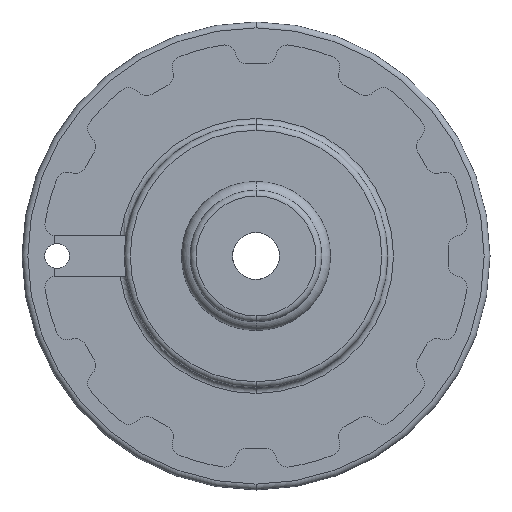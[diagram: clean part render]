
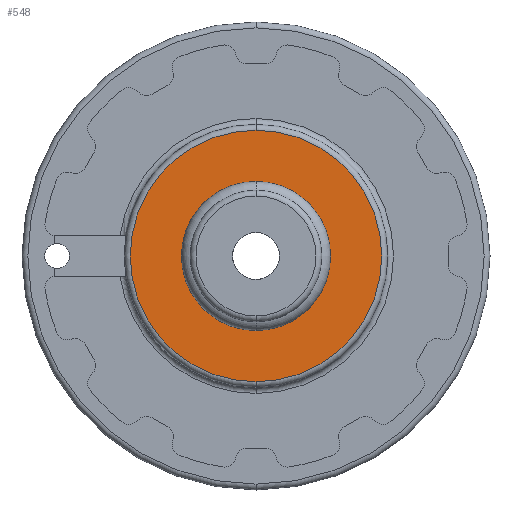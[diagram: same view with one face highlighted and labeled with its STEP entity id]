
A CAD part, front view. The second image highlights one B-rep face of the part: STEP entity #548.
In plain terms, the highlighted planar face has unit normal (0, -1, 0).
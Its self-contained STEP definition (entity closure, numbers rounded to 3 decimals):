
#69 = CARTESIAN_POINT ( 'NONE',  ( 0., -22., 25.5 ) ) ;
#154 = ORIENTED_EDGE ( 'NONE', *, *, #3510, .T. ) ;
#243 = CIRCLE ( 'NONE', #4192, 43. ) ;
#303 = CARTESIAN_POINT ( 'NONE',  ( 0., -22., 0. ) ) ;
#548 = ADVANCED_FACE ( 'NONE', ( #1630, #577 ), #4161, .T. ) ;
#577 = FACE_BOUND ( 'NONE', #1688, .T. ) ;
#667 = DIRECTION ( 'NONE',  ( 0., 0., -1. ) ) ;
#668 = CIRCLE ( 'NONE', #1718, 25.5 ) ;
#675 = EDGE_CURVE ( 'NONE', #2599, #1663, #243, .T. ) ;
#722 = AXIS2_PLACEMENT_3D ( 'NONE', #303, #2837, #4706 ) ;
#726 = CARTESIAN_POINT ( 'NONE',  ( 0., -22., -25.5 ) ) ;
#818 = ORIENTED_EDGE ( 'NONE', *, *, #675, .T. ) ;
#1562 = EDGE_LOOP ( 'NONE', ( #154, #818 ) ) ;
#1611 = VERTEX_POINT ( 'NONE', #69 ) ;
#1630 = FACE_OUTER_BOUND ( 'NONE', #1562, .T. ) ;
#1663 = VERTEX_POINT ( 'NONE', #4071 ) ;
#1688 = EDGE_LOOP ( 'NONE', ( #2490, #4440 ) ) ;
#1718 = AXIS2_PLACEMENT_3D ( 'NONE', #3912, #3936, #667 ) ;
#2116 = AXIS2_PLACEMENT_3D ( 'NONE', #4608, #2352, #3456 ) ;
#2135 = CARTESIAN_POINT ( 'NONE',  ( 0., -22., 0. ) ) ;
#2170 = VERTEX_POINT ( 'NONE', #726 ) ;
#2352 = DIRECTION ( 'NONE',  ( 0., -1., 0. ) ) ;
#2401 = EDGE_CURVE ( 'NONE', #1611, #2170, #3137, .T. ) ;
#2490 = ORIENTED_EDGE ( 'NONE', *, *, #2401, .F. ) ;
#2538 = DIRECTION ( 'NONE',  ( 0., -1., 0. ) ) ;
#2599 = VERTEX_POINT ( 'NONE', #4138 ) ;
#2668 = DIRECTION ( 'NONE',  ( 0., 0., -1. ) ) ;
#2837 = DIRECTION ( 'NONE',  ( 0., -1., 0. ) ) ;
#3008 = DIRECTION ( 'NONE',  ( 0., -1., 0. ) ) ;
#3137 = CIRCLE ( 'NONE', #722, 25.5 ) ;
#3456 = DIRECTION ( 'NONE',  ( 0., 0., -1. ) ) ;
#3510 = EDGE_CURVE ( 'NONE', #1663, #2599, #4086, .T. ) ;
#3774 = CARTESIAN_POINT ( 'NONE',  ( 0., -22., 0. ) ) ;
#3781 = EDGE_CURVE ( 'NONE', #2170, #1611, #668, .T. ) ;
#3912 = CARTESIAN_POINT ( 'NONE',  ( 0., -22., 0. ) ) ;
#3936 = DIRECTION ( 'NONE',  ( 0., -1., 0. ) ) ;
#3956 = DIRECTION ( 'NONE',  ( 0., 0., -1. ) ) ;
#4071 = CARTESIAN_POINT ( 'NONE',  ( 0., -22., -43. ) ) ;
#4086 = CIRCLE ( 'NONE', #4612, 43. ) ;
#4138 = CARTESIAN_POINT ( 'NONE',  ( 0., -22., 43. ) ) ;
#4161 = PLANE ( 'NONE',  #2116 ) ;
#4192 = AXIS2_PLACEMENT_3D ( 'NONE', #2135, #2538, #3956 ) ;
#4440 = ORIENTED_EDGE ( 'NONE', *, *, #3781, .F. ) ;
#4608 = CARTESIAN_POINT ( 'NONE',  ( 0., -22., 0. ) ) ;
#4612 = AXIS2_PLACEMENT_3D ( 'NONE', #3774, #3008, #2668 ) ;
#4706 = DIRECTION ( 'NONE',  ( 0., 0., -1. ) ) ;
